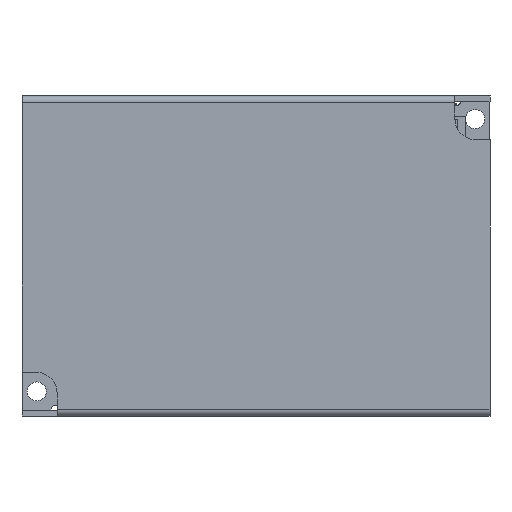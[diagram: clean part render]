
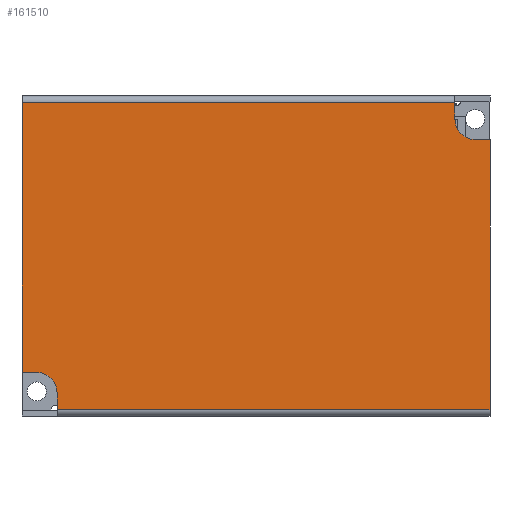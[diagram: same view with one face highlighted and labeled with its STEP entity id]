
A CAD part, front view. The second image highlights one B-rep face of the part: STEP entity #161510.
In plain terms, the highlighted planar face has unit normal (0, -1, 0).
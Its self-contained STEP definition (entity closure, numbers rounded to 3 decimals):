
#2059 = ORIENTED_EDGE ( 'NONE', *, *, #91981, .T. ) ;
#2562 = CARTESIAN_POINT ( 'NONE',  ( 78.768, 0., -42.9 ) ) ;
#6544 = FACE_OUTER_BOUND ( 'NONE', #120148, .T. ) ;
#14061 = AXIS2_PLACEMENT_3D ( 'NONE', #158860, #177814, #106123 ) ;
#15867 = DIRECTION ( 'NONE',  ( 1., 0., 0. ) ) ;
#21585 = CARTESIAN_POINT ( 'NONE',  ( 73.968, 0., -3.2 ) ) ;
#22045 = ORIENTED_EDGE ( 'NONE', *, *, #93974, .T. ) ;
#22521 = CIRCLE ( 'NONE', #103589, 2.8 ) ;
#24340 = DIRECTION ( 'NONE',  ( -1., 0., 0. ) ) ;
#27310 = VERTEX_POINT ( 'NONE', #41983 ) ;
#29854 = CARTESIAN_POINT ( 'NONE',  ( 19.568, 0., -42.9 ) ) ;
#36249 = EDGE_CURVE ( 'NONE', #152771, #62270, #228615, .T. ) ;
#37701 = VERTEX_POINT ( 'NONE', #207159 ) ;
#39866 = LINE ( 'NONE', #112573, #172254 ) ;
#40415 = VERTEX_POINT ( 'NONE', #2562 ) ;
#40789 = CARTESIAN_POINT ( 'NONE',  ( 76.768, 0., -6. ) ) ;
#41983 = CARTESIAN_POINT ( 'NONE',  ( 14.768, 0., -0.9 ) ) ;
#44062 = CARTESIAN_POINT ( 'NONE',  ( 19.568, 0., -40.6 ) ) ;
#47597 = VERTEX_POINT ( 'NONE', #40789 ) ;
#48205 = EDGE_CURVE ( 'NONE', #47597, #93535, #22521, .T. ) ;
#51763 = CARTESIAN_POINT ( 'NONE',  ( 78.768, 0., -6. ) ) ;
#56955 = DIRECTION ( 'NONE',  ( 0., 1., 0. ) ) ;
#56972 = ORIENTED_EDGE ( 'NONE', *, *, #202589, .T. ) ;
#57215 = DIRECTION ( 'NONE',  ( 1., 0., 0. ) ) ;
#58648 = VECTOR ( 'NONE', #90099, 1000. ) ;
#60317 = DIRECTION ( 'NONE',  ( 0., 1., 0. ) ) ;
#62270 = VERTEX_POINT ( 'NONE', #29854 ) ;
#62926 = DIRECTION ( 'NONE',  ( 0., 0., -1. ) ) ;
#64082 = EDGE_CURVE ( 'NONE', #37701, #27310, #39866, .T. ) ;
#69401 = ORIENTED_EDGE ( 'NONE', *, *, #64082, .T. ) ;
#69950 = LINE ( 'NONE', #180647, #58648 ) ;
#72877 = VECTOR ( 'NONE', #229830, 1000. ) ;
#74786 = LINE ( 'NONE', #175422, #230007 ) ;
#76814 = LINE ( 'NONE', #51763, #105127 ) ;
#77855 = ORIENTED_EDGE ( 'NONE', *, *, #36249, .T. ) ;
#90099 = DIRECTION ( 'NONE',  ( 0., 0., 1. ) ) ;
#91981 = EDGE_CURVE ( 'NONE', #120168, #152771, #113649, .T. ) ;
#93084 = DIRECTION ( 'NONE',  ( 1., 0., 0. ) ) ;
#93535 = VERTEX_POINT ( 'NONE', #21585 ) ;
#93974 = EDGE_CURVE ( 'NONE', #93535, #37701, #69950, .T. ) ;
#95857 = ORIENTED_EDGE ( 'NONE', *, *, #118737, .T. ) ;
#101844 = LINE ( 'NONE', #216104, #200703 ) ;
#103589 = AXIS2_PLACEMENT_3D ( 'NONE', #203710, #60317, #57215 ) ;
#105127 = VECTOR ( 'NONE', #105222, 1000. ) ;
#105222 = DIRECTION ( 'NONE',  ( -1., 0., 0. ) ) ;
#106123 = DIRECTION ( 'NONE',  ( 1., 0., 0. ) ) ;
#108140 = CARTESIAN_POINT ( 'NONE',  ( 14.768, 0., -37.8 ) ) ;
#108931 = CARTESIAN_POINT ( 'NONE',  ( 16.768, 0., -40.6 ) ) ;
#112573 = CARTESIAN_POINT ( 'NONE',  ( 78.768, 0., -0.9 ) ) ;
#113649 = CIRCLE ( 'NONE', #225232, 2.8 ) ;
#116752 = CARTESIAN_POINT ( 'NONE',  ( 16.768, 0., -37.8 ) ) ;
#117473 = CARTESIAN_POINT ( 'NONE',  ( 78.768, 0., 0. ) ) ;
#118700 = DIRECTION ( 'NONE',  ( 0., 0., -1. ) ) ;
#118737 = EDGE_CURVE ( 'NONE', #62270, #40415, #101844, .T. ) ;
#120148 = EDGE_LOOP ( 'NONE', ( #213659, #222304, #204742, #22045, #69401, #56972, #139419, #2059, #77855, #95857 ) ) ;
#120168 = VERTEX_POINT ( 'NONE', #116752 ) ;
#121088 = PLANE ( 'NONE',  #14061 ) ;
#121753 = EDGE_CURVE ( 'NONE', #202972, #47597, #76814, .T. ) ;
#122080 = VECTOR ( 'NONE', #224828, 1000. ) ;
#135817 = CARTESIAN_POINT ( 'NONE',  ( 78.768, 0., -6. ) ) ;
#139419 = ORIENTED_EDGE ( 'NONE', *, *, #229226, .T. ) ;
#141176 = VECTOR ( 'NONE', #62926, 1000. ) ;
#152771 = VERTEX_POINT ( 'NONE', #44062 ) ;
#153917 = EDGE_CURVE ( 'NONE', #40415, #202972, #223734, .T. ) ;
#158860 = CARTESIAN_POINT ( 'NONE',  ( 78.768, 0., 0. ) ) ;
#161510 = ADVANCED_FACE ( 'NONE', ( #6544 ), #121088, .T. ) ;
#172254 = VECTOR ( 'NONE', #24340, 1000. ) ;
#175422 = CARTESIAN_POINT ( 'NONE',  ( 14.768, 0., 0. ) ) ;
#177814 = DIRECTION ( 'NONE',  ( 0., -1., 0. ) ) ;
#180647 = CARTESIAN_POINT ( 'NONE',  ( 73.968, 0., 0. ) ) ;
#185174 = VERTEX_POINT ( 'NONE', #108140 ) ;
#194251 = CARTESIAN_POINT ( 'NONE',  ( 78.768, 0., -37.8 ) ) ;
#194453 = CARTESIAN_POINT ( 'NONE',  ( 19.568, 0., 0. ) ) ;
#200703 = VECTOR ( 'NONE', #15867, 1000. ) ;
#202589 = EDGE_CURVE ( 'NONE', #27310, #185174, #74786, .T. ) ;
#202972 = VERTEX_POINT ( 'NONE', #135817 ) ;
#203710 = CARTESIAN_POINT ( 'NONE',  ( 76.768, 0., -3.2 ) ) ;
#204742 = ORIENTED_EDGE ( 'NONE', *, *, #48205, .T. ) ;
#207159 = CARTESIAN_POINT ( 'NONE',  ( 73.968, 0., -0.9 ) ) ;
#213659 = ORIENTED_EDGE ( 'NONE', *, *, #153917, .T. ) ;
#216104 = CARTESIAN_POINT ( 'NONE',  ( 78.768, 0., -42.9 ) ) ;
#216789 = LINE ( 'NONE', #194251, #72877 ) ;
#222304 = ORIENTED_EDGE ( 'NONE', *, *, #121753, .T. ) ;
#223734 = LINE ( 'NONE', #117473, #122080 ) ;
#224828 = DIRECTION ( 'NONE',  ( 0., 0., 1. ) ) ;
#225232 = AXIS2_PLACEMENT_3D ( 'NONE', #108931, #56955, #93084 ) ;
#228615 = LINE ( 'NONE', #194453, #141176 ) ;
#229226 = EDGE_CURVE ( 'NONE', #185174, #120168, #216789, .T. ) ;
#229830 = DIRECTION ( 'NONE',  ( 1., 0., 0. ) ) ;
#230007 = VECTOR ( 'NONE', #118700, 1000. ) ;
